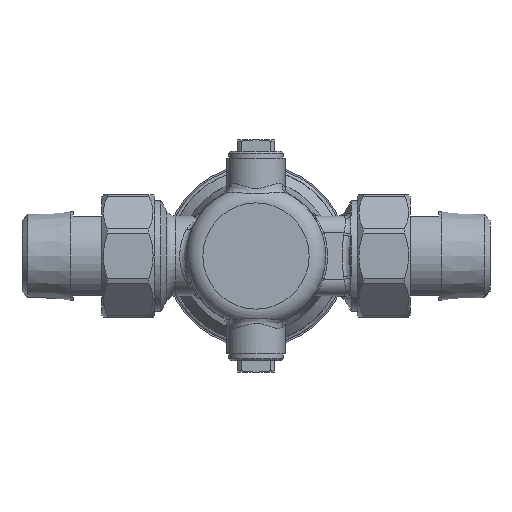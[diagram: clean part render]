
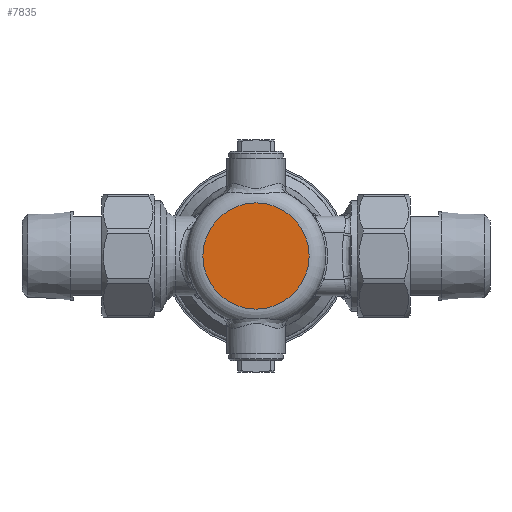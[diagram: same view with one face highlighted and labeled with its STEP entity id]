
A CAD part, front view. The second image highlights one B-rep face of the part: STEP entity #7835.
In plain terms, the highlighted planar face has unit normal (0, -1, 0).
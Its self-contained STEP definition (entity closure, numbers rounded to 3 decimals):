
#2237=FACE_OUTER_BOUND('',#2720,.T.);
#2720=EDGE_LOOP('',(#6894));
#3139=CIRCLE('',#8581,16.);
#3838=VERTEX_POINT('',#21591);
#4913=EDGE_CURVE('',#3838,#3838,#3139,.T.);
#6894=ORIENTED_EDGE('',*,*,#4913,.F.);
#7414=PLANE('',#8580);
#7835=ADVANCED_FACE('',(#2237),#7414,.T.);
#8580=AXIS2_PLACEMENT_3D('',#21590,#10279,#10280);
#8581=AXIS2_PLACEMENT_3D('',#21592,#10281,#10282);
#10279=DIRECTION('center_axis',(0.,-1.,0.));
#10280=DIRECTION('ref_axis',(-1.,0.,0.));
#10281=DIRECTION('center_axis',(0.,1.,0.));
#10282=DIRECTION('ref_axis',(-1.,0.,0.));
#21590=CARTESIAN_POINT('Origin',(0.,0.,0.));
#21591=CARTESIAN_POINT('',(16.,0.,0.));
#21592=CARTESIAN_POINT('Origin',(0.,0.,0.));
